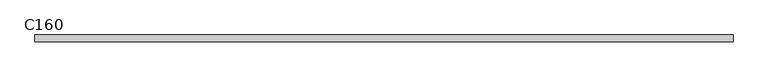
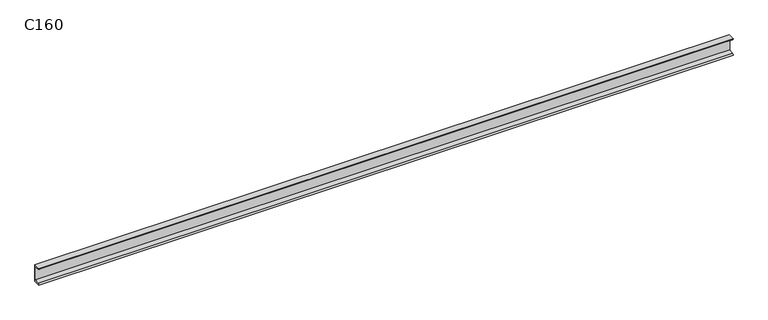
"""IFC4 building model written with IfcOpenShell, lengths in millimetres: beam geometry, RPLN C - Ceowniki normalne : C160."""

from ifc_helpers import new_model, si_unit, point, frame, frame_2d, origin, place, context, project, spatial, polyline, circle_curve, trimmed, segment, composite_curve, outline, extrude, source, transform, mapped, element, save


def c160_e8eaf836(model_context):
    return source(origin(), model_context, "Body", "SweptSolid", [
        extrude(outline(composite_curve([segment(polyline([(18.4, 80.0), (18.4, -80.0), (-46.6, -80.0)]), True, "CONTINUOUS"), segment(trimmed(circle_curve(frame_2d((-36.1, -80.0)), 10.5), [point((-46.6, -80.0))], [point((-36.1, -69.5))], False, "CARTESIAN"), True, "CONTINUOUS"), segment(polyline([(-36.1, -69.5), (10.9, -62.0559313), (10.9, 62.0559313), (-36.1, 69.5)]), True, "CONTINUOUS"), segment(trimmed(circle_curve(frame_2d((-36.1, 80.0)), 10.5), [point((-36.1, 69.5))], [point((-46.6, 80.0))], False, "CARTESIAN"), True, "CONTINUOUS"), segment(polyline([(-46.6, 80.0), (18.4, 80.0)]), True, "CONTINUOUS")], self_intersect=False)), frame((-3123.2590457, 0.0, 0.0), z_axis=(1.0, 0.0, 0.0), x_axis=(0.0, 1.0, 0.0)), (0.0, 0.0, 1.0), 6461.0648671),
    ])


if __name__ == "__main__":
    model = new_model("IFC4")
    model_context = context("Model", 3, world=origin())
    ifc_project = project(units=[si_unit("LENGTHUNIT", "METRE", prefix="MILLI")], contexts=[model_context])
    site = spatial("IfcSite", under=ifc_project)
    building = spatial("IfcBuilding", under=site)
    placement = place(None, origin())
    c160_shape = c160_e8eaf836(model_context)
    element("IfcBeam", 1, ObjectType="RPLN C - Ceowniki normalne : C160", at=placement, inside=building, context=model_context, shape_type="MappedRepresentation", body=[
        mapped(c160_shape, transform((0.0, 0.0, 0.0), x_axis=(1.0, 0.0, 0.0), y_axis=(0.0, 1.0, 0.0), z_axis=(0.0, 0.0, 1.0))),
    ])
    save(model, "model.ifc")
